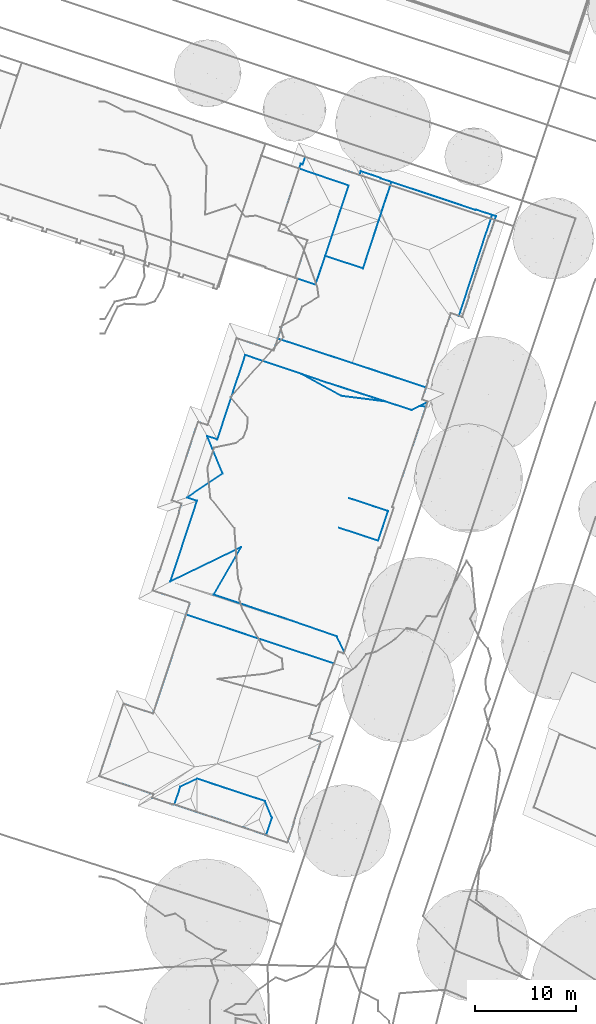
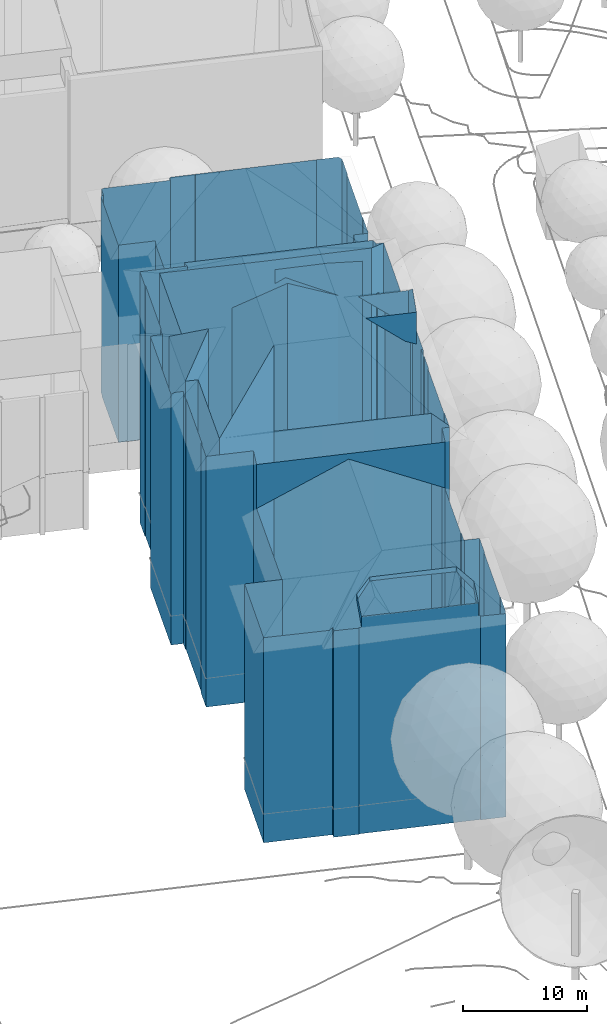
# Not in any storey, part 22 of 477: 2 walls.
"""IFC4 building model written with IfcOpenShell, lengths in metres."""

from ifc_helpers import new_model, si_unit, frame, origin_with_axes, place, context, subcontext, project, spatial, polygons, element, save


model = new_model("IFC4")

# Units and contexts
model_context = context("Model", 3, precision=1e-05, world=origin_with_axes())
body_context = subcontext(model_context, "Body", "Model", "MODEL_VIEW")
ifc_project = project(units=[si_unit("AREAUNIT", "SQUARE_METRE"), si_unit("LENGTHUNIT", "METRE")], contexts=[model_context])

# Sites, building
site_1_placement = place(None, origin_with_axes())
site_1 = spatial("IfcSite", under=ifc_project, at=site_1_placement, Name="Topoexport Site")
site_2_placement = place(site_1_placement, origin_with_axes())
site_2 = spatial("IfcSite", under=site_1, at=site_2_placement, Name="TPX_BUILDINGS")
building_placement = place(site_2_placement, frame((6.2087320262, 58.8602160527, 526.0234), z_axis=(0.0, 0.0, 1.0), x_axis=(1.0, 0.0, 0.0)))
building = spatial("IfcBuilding", under=site_2, at=building_placement, Name="Building 163", CompositionType="ELEMENT")

# Walls
wall_1_placement = place(None, frame((6.2087320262, 58.8602160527, 526.0234), z_axis=(0.0, 0.0, 1.0), x_axis=(1.0, 0.0, 0.0)))
element("IfcWall", 1, at=wall_1_placement, inside=building, Name="Wall 0", context=body_context, shape_type="Tessellation", body=[
    polygons([(21.6290000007, 7.0047999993, 27.9653), (17.6730000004, 8.3104999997, 27.9653), (20.7690000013, 7.2879999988, 25.2215), (21.6290000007, 7.0047999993, 24.8316), (20.6539999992, 4.0498000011, 26.2024), (19.2879999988, 4.5009000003, 27.9653), (20.6539999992, 4.0498000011, 27.9653), (20.6539999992, 4.0498000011, 24.8306), (19.7919999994, 4.3339000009, 25.2215), (16.6970000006, 5.3553999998, 27.9653), (17.3289999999, 5.1464000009, 27.4043), (17.8559999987, -5.322300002, 0.0), (17.5170000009, -6.3427999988, 24.7106), (17.8559999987, -5.322300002, 24.7096), (17.2919999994, -7.0175999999, 0.0), (17.8090000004, -5.3066999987, 24.7306), (17.8090000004, -5.3068000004, 0.0), (19.813000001, 0.7098999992, 24.7236), (19.813000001, 0.7098999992, 0.0), (19.8599999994, 0.6933000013, 24.7026), (19.8599999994, 0.6933000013, 0.0), (20.4189999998, 2.3720000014, 0.0), (20.4189999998, 2.3720000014, 24.7006), (20.3720000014, 2.3885999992, 24.7216), (20.6909999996, 3.3475999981, 24.7206), (20.3720000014, 2.3885999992, 0.0), (20.6909999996, 3.3475999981, 0.0), (20.8520000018, 3.2938999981, 0.0), (20.8520000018, 3.2938999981, 24.6476), (22.2050000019, 7.3574000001, 24.6436), (22.0419999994, 7.4111000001, 24.7176), (22.0419999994, 7.4109999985, 0.0), (23.5879999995, 11.9813999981, 0.0), (24.693, 15.245099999, 13.8776), (25.5760000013, 17.8574000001, 0.0), (25.5760000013, 17.8574000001, 24.6836), (23.4660000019, 11.620099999, 24.7036), (23.9919999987, 17.0458999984, 0.0), (23.9919999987, 17.0458999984, 25.2216), (16.5540000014, -5.4688000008, 25.2215), (17.2919999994, -7.0175999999, 24.7106), (16.5540000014, -5.4688000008, 0.0), (15.5450000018, 19.7762999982, 0.0), (15.5450000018, 19.7762999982, 25.2216), (0.0, 0.0, 0.0), (2.6490000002, 8.0155999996, 25.2216), (0.0, 0.0, 25.2216), (7.0269999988, 3.4169999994, 0.0), (7.0269999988, 3.4169999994, 29.8731), (4.6649999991, 14.1209999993, 0.0), (7.438000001, 22.5135999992, 25.2216), (4.6649999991, 14.121100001, 25.2216), (1.6449999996, 8.3486000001, 0.0), (5.2030000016, 10.7382000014, 0.0), (1.6449999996, 8.3486000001, 25.2216), (2.6490000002, 8.0155999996, 0.0), (7.438000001, 22.5135999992, 0.0), (3.6620000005, 14.4540999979, 0.0), (3.6620000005, 14.4540999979, 25.2216), (5.2030000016, 10.7382000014, 27.6903), (4.3040000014, -1.2989000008, 0.0), (4.3040000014, -1.2989000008, 25.2216), (8.0500000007, -2.5713, 0.0), (8.0500000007, -2.5713, 25.2215), (12.0729999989, -3.9052999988, 0.0), (12.0729999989, -3.9052999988, 25.2215), (21.125, 5.4785000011, 24.8316), (21.125, 5.4785000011, 29.2082), (22.2050000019, 7.3574000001, 0.0)], [[[3, 2, 1]], [[1, 4, 3]], [[7, 6, 5]], [[5, 9, 8]], [[9, 5, 6]], [[11, 6, 10]], [[6, 11, 9]], [[14, 13, 12]], [[13, 15, 12]], [[17, 16, 14]], [[14, 12, 17]], [[19, 18, 16]], [[16, 17, 19]], [[21, 20, 19]], [[22, 20, 21]], [[22, 23, 20]], [[24, 23, 22]], [[24, 26, 25]], [[25, 26, 27]], [[28, 25, 27]], [[28, 29, 25]], [[29, 28, 30]], [[32, 31, 30]], [[35, 34, 33]], [[36, 34, 35]], [[33, 34, 37]], [[33, 37, 32]], [[31, 32, 37]], [[39, 36, 38]], [[15, 41, 40]], [[42, 15, 40]], [[44, 39, 43]], [[47, 46, 45]], [[49, 47, 48]], [[52, 51, 50]], [[55, 54, 53]], [[46, 55, 56]], [[51, 44, 57]], [[59, 52, 58]], [[60, 59, 54]], [[62, 48, 61]], [[64, 62, 63]], [[66, 64, 65]], [[40, 66, 42]], [[4, 1, 67]], [[5, 8, 67]], [[67, 1, 5]], [[7, 5, 1]], [[68, 7, 1]], [[15, 13, 41]], [[20, 18, 19]], [[22, 26, 24]], [[69, 30, 28]], [[30, 69, 32]], [[34, 36, 37]], [[36, 35, 38]], [[39, 38, 43]], [[46, 56, 45]], [[47, 45, 48]], [[51, 57, 50]], [[60, 54, 55]], [[55, 53, 56]], [[44, 43, 57]], [[52, 50, 58]], [[59, 58, 54]], [[49, 48, 62]], [[62, 61, 63]], [[64, 63, 65]], [[66, 65, 42]]]),
])
wall_2_placement = place(None, frame((6.2087320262, 58.8602160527, 526.0234), z_axis=(0.0, 0.0, 1.0), x_axis=(1.0, 0.0, 0.0)))
element("IfcWall", 2, at=wall_2_placement, inside=building, Name="Wall 1", context=body_context, shape_type="Tessellation", body=[
    polygons([(12.6500000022, 30.0965999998, 12.2778), (12.3839999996, 30.1845000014, 19.0412), (12.6500000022, 30.0965999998, 19.1912), (12.3839999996, 30.1845000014, 13.8567), (12.3839999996, 30.1845000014, 12.2778), (16.9910000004, 18.4530999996, 0.149), (13.0729999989, 20.6112999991, 20.993), (16.9910000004, 18.4530999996, 23.3477), (25.5870000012, 19.9470999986, 19.1241), (25.6339999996, 19.9316000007, 0.149), (25.6338, 19.931499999, 19.0971), (25.5870000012, 19.9472000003, 0.149), (27.4039999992, 25.4032999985, 0.149), (27.4039999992, 25.4032999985, 19.1121), (27.4510999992, 25.3876000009, 14.3436), (27.4510999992, 25.3876999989, 0.149), (31.9759999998, 36.4354999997, 0.149), (28.6790000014, 26.4052000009, 0.167), (31.9759999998, 36.4354999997, 0.167), (21.3740000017, 17.8915999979, 0.149), (21.3740000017, 17.8915999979, 20.968), (25.4120000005, 17.375, 0.149), (25.5760000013, 17.8574000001, 18.7722), (25.5390000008, 17.748999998, 4.9455), (25.5760000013, 17.8574000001, 0.149), (25.4120000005, 17.375, 18.7752), (4.6649999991, 14.121100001, 0.0), (3.6620000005, 14.4540999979, 25.2216), (4.6649999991, 14.121100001, 25.2216), (6.006000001, 22.3154000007, 0.0), (4.0159999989, 16.3251999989, 24.6526), (4.0159999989, 16.3251999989, 0.0), (3.9690000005, 16.3416999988, 0.0), (3.9690000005, 16.3418000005, 12.3048), (3.9690000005, 16.3418000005, 18.4682), (3.9690000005, 16.3418000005, 24.6316), (7.438000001, 22.5135999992, 0.0), (7.438000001, 22.5135999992, 25.2216), (5.9589999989, 22.3319999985, 0.0), (6.5749999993, 24.1816000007, 0.0), (5.9589999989, 22.3319999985, 24.6356), (6.5749999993, 24.1816000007, 6.1594), (0.1440000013, 8.0507000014, 24.6526), (0.1440000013, 8.0507000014, 18.4872), (2.7419999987, 15.8612999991, 0.0), (0.1440000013, 8.0507000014, 0.0), (0.1440000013, 8.0507000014, 12.3228), (2.7419999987, 15.8612999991, 12.3298), (2.0069999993, 13.6503999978, 24.6576), (5.2030000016, 10.7382000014, 0.0), (1.6449999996, 8.3486000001, 25.2216), (5.2030000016, 10.7382000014, 27.6903), (3.6620000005, 14.4540999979, 0.0), (1.6449999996, 8.3486000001, 0.0), (2.6490000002, 8.0155999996, 25.2216), (0.8953000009, 6.9365999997, 0.0), (0.8471999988, 6.9519999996, 18.4192), (0.8469999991, 6.9519999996, 24.6236), (0.8949999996, 6.936499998, 24.6456), (-1.1079999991, 0.9090999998, 24.6406), (-1.1079999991, 0.9090999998, 0.0), (-1.1559999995, 0.9257999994, 24.6186), (-1.1559999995, 0.9257000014, 0.0), (-1.7630000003, -0.9013999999, 24.6176), (-1.7630000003, -0.9013999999, 0.0), (2.6490000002, 8.0155999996, 0.0), (0.0, 0.0, 25.2216), (16.6739999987, -6.9746000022, 24.6476), (17.2430000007, -7.1640999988, 24.6466), (16.6739999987, -6.9746000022, 18.4862), (16.6739999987, -6.9747000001, 0.0), (16.6739999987, -6.9746000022, 6.1624), (17.2430000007, -7.1640999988, 0.0), (17.2919999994, -7.0175999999, 24.7106), (17.2919999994, -7.0175999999, 0.0), (16.5540000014, -5.4688000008, 0.0), (16.5540000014, -5.4688000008, 25.2215), (12.0729999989, -3.9052999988, 0.0), (12.0729999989, -3.9052999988, 25.2215), (8.0500000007, -2.5713, 0.0), (8.0500000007, -2.5713, 25.2215), (4.3040000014, -1.2989000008, 0.0), (4.3040000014, -1.2989000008, 25.2216), (7.0269999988, 3.4169999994, 0.0), (7.0269999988, 3.4169999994, 29.8731), (0.0, 0.0, 0.0), (24.7890000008, 17.4540999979, 19.1131), (24.7890000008, 17.4540999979, 0.149), (25.5870000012, 17.8915999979, 0.0), (25.0179999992, 18.0819999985, 24.6676), (25.0179999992, 18.0819999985, 0.0), (10.6730000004, 24.1484000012, 0.0), (25.4169999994, 19.2793000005, 0.149), (10.6730000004, 24.1484000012, 0.149), (18.0610000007, 21.7089999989, 23.3477), (10.6730000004, 24.1484000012, 24.1327), (10.6730000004, 24.1484000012, 19.1802), (25.4169999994, 19.2793000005, 19.0991), (25.4169999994, 19.2793000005, 24.1327), (25.5760000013, 17.8574000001, 24.6836), (25.5760000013, 17.8574000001, 0.0), (23.9919999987, 17.0458999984, 0.0), (23.9919999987, 17.0458999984, 25.2216), (25.5870000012, 17.8915999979, 24.6686), (15.5450000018, 19.7762999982, 25.2216), (15.5450000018, 19.7762999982, 22.3908), (13.0729999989, 20.6112999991, 0.149), (15.5450000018, 19.7762999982, 0.149), (15.5450000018, 19.7762999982, 0.0), (17.245000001, 19.2265000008, 23.3477), (29.6290000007, 28.3037, 0.167), (29.675999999, 28.2870999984, 0.167), (29.675999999, 28.2870999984, 4.9445), (31.6480000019, 34.3134000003, 0.167), (30.6330000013, 31.2928999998, 19.4111), (31.6480000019, 34.3134000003, 19.3951), (31.6950000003, 34.2978000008, 19.3581), (31.6949000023, 34.2974999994, 0.167), (32.368999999, 36.3046999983, 19.3481), (32.368999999, 36.3046000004, 9.7521), (32.368999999, 36.3046000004, 0.167), (10.0930000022, -23.496100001, 21.9128), (9.4129999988, -21.8368999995, 22.5808), (9.4129999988, -21.8370000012, 22.0868), (10.0930000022, -23.496100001, 21.0859), (9.5240000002, -25.2177999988, 21.0259), (4.8559999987, -20.3311000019, 22.1868), (2.6530000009, -19.6035000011, 22.5808), (2.6530000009, -19.6035000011, 22.1868), (0.9900000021, -20.3936000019, 21.3189), (0.9900000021, -20.3936000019, 21.9578), (0.6720000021, -21.3555000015, 20.626), (0.3980000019, -22.1845999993, 21.0339), (0.3980000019, -22.1845999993, 20.001), (0.1950000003, -22.1700000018, -0.29), (0.1950000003, -22.1700000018, 4.7485), (0.2109999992, -22.1220999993, -0.29), (0.2109999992, -22.1220999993, 14.9315), (0.1950000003, -22.1700000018, 19.97), (0.2109999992, -22.1220999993, 20.005), (0.2109999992, -22.1220999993, 4.7835), (0.1953999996, -22.1697000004, 14.8965), (9.6728999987, -25.2666999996, -0.29), (9.6570000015, -25.3136, 19.749), (9.6568999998, -25.3136, -0.29), (9.6730000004, -25.2666000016, 19.785), (9.6732000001, -25.2666999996, 14.7665), (11.629999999, -25.9688000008, 19.704), (12.2930000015, -23.9754999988, -0.29), (12.2930000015, -23.9756000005, 19.874), (12.246199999, -23.9589000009, -0.29), (13.2459999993, -20.9501999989, -0.29), (12.2459999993, -23.9589999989, 19.911), (14.2459999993, -17.942400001, -0.29), (14.2930000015, -17.9580000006, 14.8415), (14.2930000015, -17.9580999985, 9.786), (14.2926000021, -17.9583000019, 19.898), (14.2930000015, -17.9580999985, -0.29), (14.2410000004, -14.2811999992, -0.29), (14.2410000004, -14.2813000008, 14.6415), (14.1941, -14.2655999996, -0.29), (14.194000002, -14.2657000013, 19.6521), (16.1970000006, -8.2481000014, 19.6451), (16.1970000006, -8.2481000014, -0.29), (16.243999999, -8.2646999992, 9.653), (16.243999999, -8.2646999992, 19.6201), (16.243999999, -8.2646999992, -0.29), (-4.6679999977, -12.1581999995, 4.7605), (-7.0720000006, -19.3643000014, 19.8721), (-7.0720000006, -19.3643000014, -0.29), (-4.6679999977, -12.1581999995, 14.8625), (-5.2690000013, -13.9609999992, 19.9031), (-4.6679999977, -12.1583000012, -0.29), (8.7470000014, -5.6719000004, 23.5807), (16.2789999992, -8.1601999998, 24.1326), (16.2789999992, -8.1601999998, 19.6201), (1.550999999, -3.2969000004, 19.7971), (1.550999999, -3.2969000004, 24.1327), (12.6460000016, 30.0839000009, 0.149), (12.3839999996, 30.1845000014, 0.149), (12.6460000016, 30.0839000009, 12.2778), (12.6460000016, 30.0839000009, -0.08), (12.3850000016, 30.1845000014, -0.08), (12.7989999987, 41.0370999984, -0.08), (17.7219999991, 39.3603000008, 0.078), (12.7989999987, 41.0370999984, 0.078), (13.4000000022, 42.1972000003, 0.078), (13.4000000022, 42.1972000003, 4.9185), (13.1550000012, 41.4609000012, 19.4401), (12.9609999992, 41.5243999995, 0.078), (13.1550000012, 41.4609000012, 0.078), (12.9609999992, 41.5243999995, 9.6041), (14.4270000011, 29.4912, -0.08), (14.4270000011, 29.4912, 0.149), (15.3839999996, 32.3563999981, 0.078), (17.7219999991, 39.3603000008, -0.08), (15.3839999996, 32.3563999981, 0.149), (19.1429999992, 31.1209999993, 0.078), (19.1429999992, 31.1209999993, 0.149), (10.2760000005, 22.9521000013, 19.1772), (10.2760000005, 22.9521000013, 24.6676), (10.2760000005, 22.9521000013, 0.0), (29.0069999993, 26.2967999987, 19.3071), (29.0069999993, 26.2967999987, 0.167), (27.8790000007, 26.6717999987, 0.149), (28.6790000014, 26.4052000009, 0.149), (27.8790000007, 26.6717999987, 19.3101), (2.8909999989, 15.8125, 0.0), (3.7030000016, 15.5428999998, 0.0), (3.7030000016, 15.5428999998, 24.7266), (2.8909999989, 15.8125, 24.7266), (2.7419999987, 15.8612999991, 24.6596), (3.7670000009, 15.7353000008, 24.6306), (3.7670000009, 15.7353000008, 0.0), (6.6330000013, 24.1620999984, 24.6646), (6.5749999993, 24.1816000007, 24.6376), (0.4409999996, 7.9510999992, 24.7866), (1.1059999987, 7.7313999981, 24.7856), (0.4409999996, 7.9510999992, 0.0), (1.1059999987, 7.7313999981, 0.0), (0.8469999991, 6.9521000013, 0.0), (1.0170000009, 7.4637999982, 24.6236), (1.938000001, -2.1319000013, 0.0), (1.938000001, -2.1319000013, 24.6386), (-1.7089999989, -0.9200000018, 24.6416), (16.2789999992, -8.1601999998, 0.0), (16.2789999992, -8.1601999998, -0.29), (25.4169999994, 19.2793000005, 0.0), (29.675999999, 28.2870999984, 19.3891), (29.0460000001, 26.4111000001, 19.3991), (29.0460000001, 26.4111000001, 0.167), (27.4510000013, 25.3876999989, 19.0851), (27.7850000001, 26.3885999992, 19.0822), (30.3770000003, 36.9668000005, 19.5821), (32.069000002, 36.4043000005, 19.5861), (30.3770000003, 36.9668000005, 0.149), (30.8610000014, 36.8055999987, 0.149), (30.3610000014, 36.9199000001, 0.149), (30.3610000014, 36.9199000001, 19.6171), (20.9079000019, 40.1160999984, 19.5561), (20.9079999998, 40.1160999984, 0.078), (20.8920000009, 40.0692999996, 0.078), (20.8920000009, 40.0692999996, 19.5921), (18.8220000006, 40.4736000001, 19.4771), (18.7989999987, 40.4023000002, 19.5351), (18.7989999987, 40.4023000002, 0.078), (18.9230000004, 40.7762999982, 0.078), (18.9230000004, 40.7762999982, 19.4771), (19.0159999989, 40.745099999, 19.5511), (11.7019999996, -25.7529999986, 19.867), (11.629999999, -25.9688000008, -0.29), (14.936999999, -16.0245000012, -0.29), (14.9600000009, -15.9541999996, -0.29), (14.9600000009, -15.9541000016, 19.854), (14.936999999, -16.0245000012, 19.906), (14.4059999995, -15.7705000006, 19.853), (13.8099999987, -15.572300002, 19.863), (13.8099999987, -15.572300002, -0.29), (13.9200000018, -15.2432000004, 19.6281), (14.2410000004, -14.2813000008, 19.6271), (-1.7129999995, -21.251000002, 20.091), (-1.7980000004, -21.5069000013, 19.987), (-1.7980000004, -21.5069000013, -0.29), (-1.680999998, -21.1552999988, 20.085), (-1.680999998, -21.1552999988, -0.29), (-1.7609999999, -21.5186000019, 20.0), (-1.0119999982, -21.7675999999, 19.998), (-1.7609999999, -21.5186000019, -0.29), (-1.0119999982, -21.7675999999, -0.29), (-1.7210000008, -13.1387000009, -0.29), (-4.6160000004, -12.1757999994, 19.9501), (-4.6679999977, -12.1581999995, 19.9131), (-1.7210000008, -13.1387000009, 19.9541), (-1.6459999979, -12.9131000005, -0.29), (-1.6459999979, -12.9131000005, 19.7871), (1.550999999, -3.2969000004, 0.0), (1.550999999, -3.2969000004, -0.29), (-1.9459999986, -21.067400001, 19.8321), (-6.1330000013, -19.6768000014, 19.8691), (8.7470000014, -5.6719000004, -0.29), (10.7520000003, 34.8797999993, -0.08), (10.7520000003, 34.8797999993, 19.2672), (12.9609999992, 41.5243999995, 19.2852), (13.5140000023, 33.5819999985, 19.0472), (13.6280000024, 33.9248000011, -0.08), (13.6280000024, 33.9248000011, 19.3152), (21.9670000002, 39.7127999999, 0.149), (21.9670000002, 39.7127999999, 0.078), (10.8210000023, 34.8563999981, 19.3222), (13.4000000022, 42.1972000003, 14.6016), (16.9090000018, 41.0302000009, 19.5291), (13.4970000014, 42.1660000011, 19.5201), (13.4000000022, 42.1972000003, 19.4421), (20.7239999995, 35.9316000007, 0.149), (20.7239999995, 35.9316000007, 22.3649), (20.7400000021, 35.9813999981, 22.3239), (20.7070000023, 35.8797999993, 22.3239), (2.625, -22.9248000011, 21.0319), (7.1449999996, -24.4268000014, 21.0279), (9.5240000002, -25.2177999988, 19.788), (7.1799999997, -24.438500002, 21.0459), (0.4750000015, -22.2109999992, 21.0629), (2.5879999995, -22.9121000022, 21.06), (9.4780000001, -25.2021999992, 21.0429), (9.6730000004, -25.2666000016, 4.7285), (0.3980000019, -22.1845999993, -0.285), (0.4750000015, -22.2109999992, -0.285), (7.1449999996, -24.4268000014, -0.285), (2.5879999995, -22.9122000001, -0.285), (9.5190000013, -25.2159000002, -0.285), (2.625, -22.9248000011, -0.285), (7.1799999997, -24.438500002, -0.285), (6.006000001, 22.3154000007, 24.6576), (29.6290000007, 28.3037, 19.4271), (14.2459999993, -17.942400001, 19.935)], [[[3, 2, 1]], [[4, 1, 2]], [[4, 5, 1]], [[8, 7, 6]], [[11, 10, 9]], [[9, 10, 12]], [[14, 9, 13]], [[16, 15, 13]], [[14, 13, 15]], [[19, 18, 17]], [[21, 6, 20]], [[24, 23, 22]], [[25, 24, 22]], [[26, 22, 23]], [[29, 28, 27]], [[32, 31, 30]], [[34, 31, 33]], [[36, 31, 35]], [[31, 32, 33]], [[38, 29, 37]], [[41, 40, 39]], [[42, 40, 41]], [[41, 39, 30]], [[45, 44, 43]], [[47, 45, 46]], [[49, 48, 43]], [[45, 43, 48]], [[52, 51, 50]], [[28, 50, 53]], [[51, 55, 54]], [[58, 57, 56]], [[56, 59, 58]], [[61, 60, 59]], [[59, 56, 61]], [[63, 62, 61]], [[62, 60, 61]], [[65, 64, 63]], [[62, 63, 64]], [[55, 67, 66]], [[70, 69, 68]], [[69, 72, 71]], [[69, 71, 73]], [[75, 74, 73]], [[77, 75, 76]], [[74, 75, 77]], [[79, 77, 78]], [[81, 79, 80]], [[83, 81, 82]], [[85, 83, 84]], [[67, 84, 86]], [[22, 26, 87]], [[88, 22, 87]], [[91, 90, 89]], [[94, 93, 92]], [[97, 96, 95]], [[95, 99, 98]], [[99, 95, 96]], [[23, 100, 87]], [[101, 25, 88]], [[87, 103, 102]], [[103, 87, 100]], [[88, 102, 101]], [[102, 88, 87]], [[89, 104, 100]], [[89, 23, 25]], [[89, 25, 101]], [[106, 105, 7]], [[109, 108, 107]], [[7, 38, 37]], [[38, 7, 105]], [[107, 37, 109]], [[37, 107, 7]], [[103, 21, 102]], [[21, 103, 110]], [[102, 20, 109]], [[20, 102, 21]], [[110, 105, 106]], [[105, 110, 103]], [[109, 20, 108]], [[113, 112, 111]], [[116, 115, 114]], [[111, 114, 115]], [[118, 117, 116]], [[118, 116, 114]], [[120, 119, 118]], [[121, 120, 118]], [[117, 118, 119]], [[124, 123, 122]], [[122, 125, 124]], [[122, 126, 125]], [[129, 128, 127]], [[127, 123, 124]], [[123, 127, 128]], [[131, 129, 130]], [[134, 133, 132]], [[132, 131, 130]], [[131, 132, 133]], [[137, 136, 135]], [[140, 139, 138]], [[142, 141, 139]], [[145, 144, 143]], [[147, 144, 146]], [[144, 145, 148]], [[151, 150, 149]], [[154, 153, 152]], [[153, 151, 152]], [[156, 155, 154]], [[157, 154, 155]], [[158, 156, 154]], [[161, 160, 159]], [[162, 160, 161]], [[164, 163, 161]], [[166, 163, 165]], [[165, 163, 167]], [[163, 164, 167]], [[170, 169, 168]], [[168, 172, 171]], [[170, 168, 173]], [[176, 175, 174]], [[174, 178, 177]], [[178, 174, 175]], [[181, 180, 179]], [[179, 183, 182]], [[186, 185, 184]], [[189, 188, 187]], [[192, 191, 190]], [[194, 179, 193]], [[196, 185, 195]], [[195, 194, 193]], [[194, 195, 197]], [[195, 193, 196]], [[199, 197, 198]], [[97, 200, 96]], [[96, 200, 201]], [[200, 97, 94]], [[94, 92, 202]], [[202, 200, 94]], [[94, 97, 181]], [[179, 94, 181]], [[3, 1, 181]], [[97, 3, 181]], [[18, 204, 203]], [[206, 18, 205]], [[205, 203, 207]], [[203, 205, 18]], [[45, 48, 208]], [[210, 209, 48]], [[211, 210, 48]], [[48, 209, 208]], [[211, 48, 212]], [[213, 35, 210]], [[35, 213, 36]], [[210, 35, 34]], [[34, 33, 214]], [[214, 209, 34]], [[34, 209, 210]], [[202, 40, 42]], [[200, 216, 215]], [[200, 215, 201]], [[42, 216, 200]], [[42, 200, 202]], [[217, 43, 44]], [[218, 44, 47]], [[44, 218, 217]], [[47, 46, 219]], [[219, 220, 47]], [[47, 220, 218]], [[221, 57, 220]], [[58, 222, 57]], [[218, 57, 222]], [[57, 218, 220]], [[224, 64, 223]], [[64, 224, 225]], [[65, 223, 64]], [[70, 68, 175]], [[176, 166, 70]], [[176, 70, 175]], [[70, 166, 165]], [[165, 72, 70]], [[72, 165, 226]], [[226, 71, 72]], [[167, 227, 226]], [[226, 165, 167]], [[11, 93, 10]], [[90, 98, 99]], [[98, 93, 11]], [[93, 91, 228]], [[91, 93, 98]], [[98, 90, 91]], [[230, 203, 229]], [[203, 113, 229]], [[231, 112, 113]], [[204, 231, 113]], [[113, 203, 204]], [[233, 232, 15]], [[207, 233, 15]], [[16, 205, 207]], [[16, 207, 15]], [[235, 119, 234]], [[234, 119, 120]], [[234, 120, 236]], [[121, 19, 120]], [[237, 236, 120]], [[237, 19, 17]], [[237, 120, 19]], [[239, 234, 238]], [[236, 238, 234]], [[242, 241, 240]], [[240, 243, 242]], [[246, 245, 244]], [[244, 248, 247]], [[244, 247, 246]], [[241, 247, 248]], [[248, 249, 240]], [[248, 240, 241]], [[250, 148, 150]], [[148, 149, 150]], [[149, 148, 251]], [[253, 156, 252]], [[156, 253, 254]], [[158, 252, 156]], [[254, 255, 155]], [[157, 155, 255]], [[254, 155, 156]], [[258, 257, 256]], [[256, 254, 253]], [[256, 253, 258]], [[260, 259, 160]], [[159, 160, 257]], [[257, 160, 259]], [[159, 257, 258]], [[263, 262, 261]], [[263, 261, 264]], [[265, 263, 264]], [[266, 262, 142]], [[139, 267, 142]], [[142, 267, 266]], [[262, 136, 142]], [[263, 136, 262]], [[136, 263, 268]], [[136, 269, 135]], [[269, 136, 268]], [[270, 173, 168]], [[168, 171, 270]], [[272, 271, 171]], [[273, 171, 271]], [[171, 273, 270]], [[178, 224, 177]], [[275, 177, 274]], [[273, 275, 270]], [[224, 223, 177]], [[223, 276, 177]], [[270, 275, 274]], [[277, 274, 276]], [[274, 177, 276]], [[264, 278, 265]], [[265, 278, 170]], [[279, 169, 170]], [[170, 278, 279]], [[277, 276, 280]], [[280, 226, 227]], [[226, 280, 276]], [[281, 192, 186]], [[192, 281, 282]], [[184, 281, 186]], [[283, 192, 282]], [[192, 190, 186]], [[284, 4, 2]], [[284, 286, 285]], [[285, 183, 180]], [[285, 5, 284]], [[285, 180, 5]], [[284, 5, 4]], [[288, 242, 287]], [[287, 242, 243]], [[287, 239, 238]], [[239, 287, 243]], [[286, 289, 282]], [[282, 281, 285]], [[282, 285, 286]], [[246, 187, 188]], [[188, 290, 246]], [[293, 292, 291]], [[293, 291, 290]], [[245, 290, 291]], [[290, 245, 246]], [[288, 287, 198]], [[198, 287, 294]], [[198, 294, 199]], [[297, 296, 295]], [[147, 299, 298]], [[301, 299, 300]], [[302, 133, 134]], [[303, 134, 298]], [[134, 303, 302]], [[138, 147, 298]], [[300, 126, 304]], [[300, 147, 146]], [[300, 299, 147]], [[300, 304, 301]], [[147, 138, 305]], [[134, 138, 298]], [[141, 305, 138]], [[141, 137, 306]], [[306, 307, 141]], [[141, 308, 305]], [[141, 307, 309]], [[143, 305, 310]], [[311, 308, 141]], [[305, 308, 312]], [[305, 312, 310]], [[311, 141, 309]], [[138, 134, 140]], [[7, 107, 6]], [[9, 12, 13]], [[232, 14, 15]], [[18, 206, 17]], [[8, 6, 21]], [[28, 53, 27]], [[313, 30, 31]], [[34, 35, 31]], [[29, 27, 37]], [[41, 216, 42]], [[41, 30, 313]], [[47, 44, 45]], [[212, 48, 49]], [[51, 54, 50]], [[52, 50, 28]], [[55, 66, 54]], [[57, 221, 56]], [[67, 86, 66]], [[72, 69, 70]], [[69, 73, 74]], [[77, 76, 78]], [[79, 78, 80]], [[81, 80, 82]], [[83, 82, 84]], [[85, 84, 67]], [[90, 104, 89]], [[93, 228, 92]], [[89, 100, 23]], [[23, 24, 25]], [[314, 229, 113]], [[314, 113, 111]], [[314, 111, 115]], [[126, 300, 125]], [[128, 129, 131]], [[141, 136, 137]], [[139, 141, 138]], [[136, 141, 142]], [[144, 305, 143]], [[305, 144, 147]], [[251, 148, 145]], [[150, 151, 153]], [[153, 154, 315]], [[315, 154, 157]], [[260, 160, 162]], [[162, 161, 163]], [[169, 172, 168]], [[272, 171, 172]], [[5, 180, 181]], [[180, 183, 179]], [[185, 196, 184]], [[191, 189, 187]], [[189, 293, 290]], [[290, 188, 189]], [[192, 283, 191]], [[189, 191, 283]], [[179, 182, 193]], [[197, 195, 198]]]),
])

save(model, "model.ifc")
